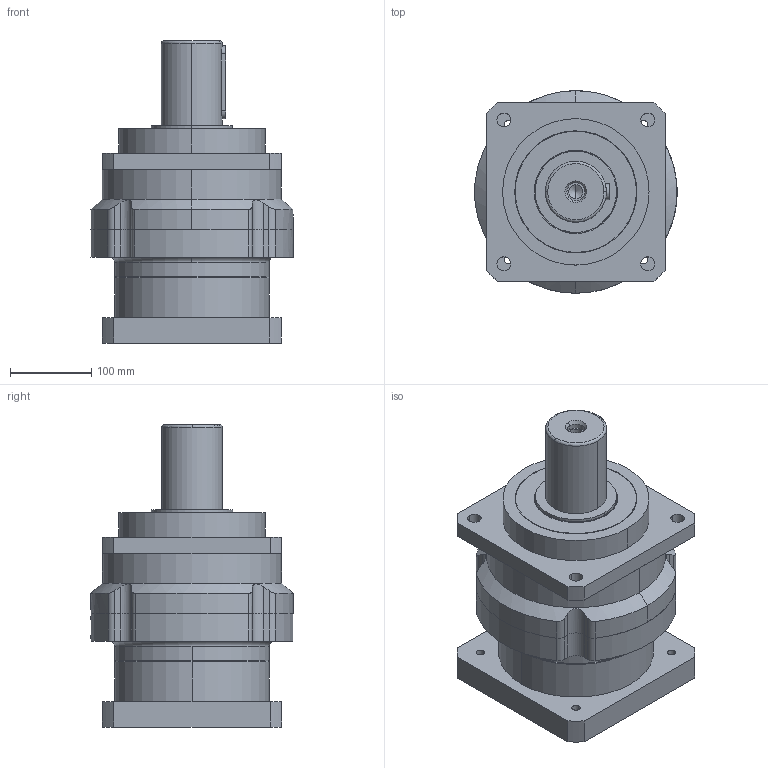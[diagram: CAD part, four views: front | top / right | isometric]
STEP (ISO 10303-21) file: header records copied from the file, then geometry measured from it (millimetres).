
FILE_DESCRIPTION (( 'STEP AP203' ), '1' );
FILE_NAME ('PLM220-L1-55-200-235.STEP', '2022-07-05T07:08:23', ( 'Windows User' ), ( 'P R C' ), 'SwSTEP 2.0', 'SolidWorks 2016', '' );
FILE_SCHEMA (( 'CONFIG_CONTROL_DESIGN' ));
Length unit declared in the file: millimetre
Products named in the file (7): 邧埴瑩 20x12x90; TC100-150-10_TC-34.9-55-7; PLM220珨撰狟裔薊粣ん; PLM220-LJ01; hexagon socket head cap screw_jis_JIS B 1176 M12 x 35 (35) --N; PLM220-L1-55-200-235; PLM220转架齿圈
Assembly tree (6 placements, depth 2):
  PLM220-L1-55-200-235
    PLM220转架齿圈
    邧埴瑩 20x12x90
    TC100-150-10_TC-34.9-55-7
    PLM220珨撰狟裔薊粣ん
    PLM220-LJ01
    hexagon socket head cap screw_jis_JIS B 1176 M12 x 35 (35) --N
Bounding box: 248.55 x 249 x 371.5 mm (x, y, z)
Volume: 9152978.4 mm3; surface area: 676995.3 mm2
Topology: 6 solids, 6 shells, 1023 faces, 2693 edges, 1762 vertices
Faces by surface type: plane 532, cylinder 233, bspline 166, cone 68, torus 24
Entity records: 40414 total; most frequent: CARTESIAN_POINT 15122, ORIENTED_EDGE 5334, DIRECTION 4669, EDGE_CURVE 2667, VERTEX_POINT 1762, AXIS2_PLACEMENT_3D 1572, VECTOR 1525, LINE 1525
